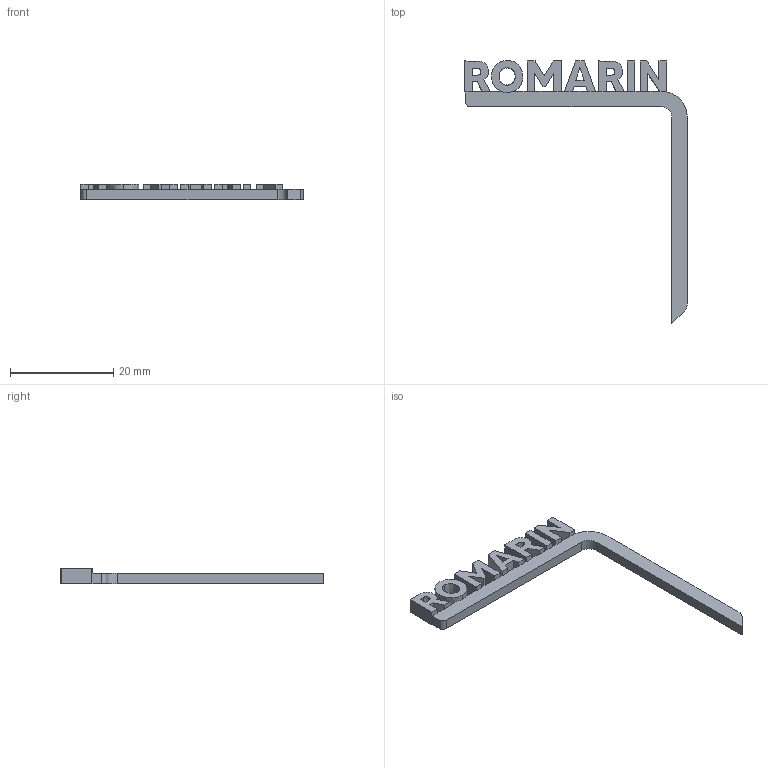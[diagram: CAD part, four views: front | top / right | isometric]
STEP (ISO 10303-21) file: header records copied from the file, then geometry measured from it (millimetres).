
FILE_DESCRIPTION(('STEP AP214'),'1');
FILE_NAME('Romarin.stp','2025-04-24T13:27:24',(' '),(' '),'Spatial InterOp 3D',' ',' ');
FILE_SCHEMA(('AUTOMOTIVE_DESIGN { 1 0 10303 214 1 1 1 1 }'));
Length unit declared in the file: millimetre
Products named in the file (1): Romarin
Bounding box: 43.11 x 50.98 x 3 mm (x, y, z)
Volume: 905.4 mm3; surface area: 1643.1 mm2
Topology: 1 solids, 1 shells, 105 faces, 328 edges, 220 vertices
Faces by surface type: plane 85, extrusion 16, cylinder 4
Entity records: 4676 total; most frequent: CARTESIAN_POINT 914, ORIENTED_EDGE 656, DIRECTION 494, EDGE_CURVE 328, VECTOR 298, LINE 282, VERTEX_POINT 220, EDGE_LOOP 118
